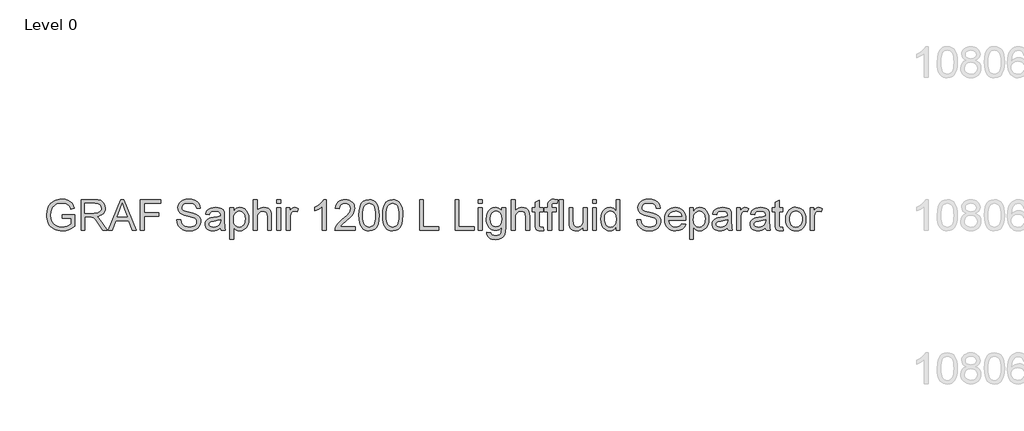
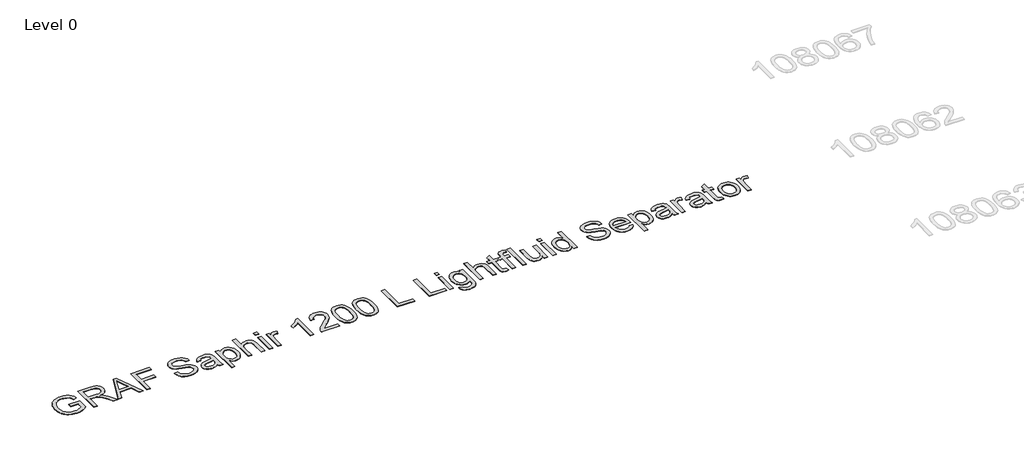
# One storey, part 3 of 9: 1 proxy.
"""IFC4 building model written with IfcOpenShell, lengths in millimetres."""

from ifc_helpers import new_model, si_unit, origin, origin_with_axes, place, context, project, spatial, polyline, outline, extrude, element, save

model = new_model("IFC4")

# Units and contexts
model_context = context("Model", 3, world=origin())
ifc_project = project(units=[si_unit("LENGTHUNIT", "METRE", prefix="MILLI")], contexts=[model_context])

# Site, building, storey
site = spatial("IfcSite", under=ifc_project)
building = spatial("IfcBuilding", under=site)
storey = spatial("IfcBuildingStorey", under=building, Name="Level 0", Elevation=0.0)

# Proxy
placement = place(None, origin())
element("IfcBuildingElementProxy", 1, Name="400mm Arial", ObjectType="400mm Arial", at=placement, inside=storey, context=model_context, shape_type="SweptSolid", body=[
    extrude(outline(polyline([(-14937.8149833, 2305.9861864), (-14937.8149833, 2356.2143415), (-14774.5734793, 2356.2143415), (-14774.5734793, 2206.0203856), (-14814.2434211, 2178.429236), (-14855.1641617, 2158.6371846), (-14897.2375993, 2146.717808), (-14940.3656318, 2142.7446824), (-14969.2167773, 2144.3235093), (-14996.7128907, 2149.05999), (-15022.8539722, 2156.9541245), (-15047.6400216, 2168.0059128), (-15070.2708957, 2182.0498079), (-15089.9464511, 2198.9202631), (-15106.6666877, 2218.6172783), (-15120.4316057, 2241.1408534), (-15131.182957, 2265.770553), (-15138.8624937, 2291.7859414), (-15143.4702157, 2319.1870187), (-15145.006123, 2347.9737848), (-15138.8870191, 2404.5662984), (-15131.2381393, 2431.3818302), (-15120.5297076, 2457.2102119), (-15106.9517963, 2480.9171408), (-15090.6944778, 2501.3683141), (-15071.7577521, 2518.5637317), (-15050.1416192, 2532.5033936), (-15026.3151286, 2543.2762047), (-15000.74733, 2550.9710698), (-14973.4382232, 2555.5879888), (-14944.3878083, 2557.1269618), (-14903.0133466, 2553.5585065), (-14865.8082141, 2542.8531404), (-14834.4769309, 2525.7834158), (-14810.7240167, 2503.1218849), (-14793.1515201, 2473.7771644), (-14780.3614894, 2436.6578711), (-14826.6655698, 2423.610323), (-14837.0030539, 2450.0855639), (-14849.5723554, 2470.0615563), (-14866.2006216, 2485.1201926), (-14888.7149997, 2496.8433655), (-14915.5581226, 2504.3849464), (-14945.1726232, 2506.8988067), (-14979.8393699, 2504.1887427), (-15009.478396, 2496.0585506), (-15033.9793369, 2483.5260373), (-15053.2318279, 2467.6090096), (-15068.0084214, 2449.1290708), (-15079.0816695, 2428.9078238), (-15090.8538933, 2390.9914528), (-15094.7779679, 2350.033924), (-15090.0568157, 2302.0007981), (-15075.8933588, 2262.4780091), (-15052.7167931, 2231.7475998), (-15020.9563142, 2210.091613), (-14983.78797, 2197.2525314), (-14944.3878083, 2192.9728375), (-14909.5984343, 2196.1979363), (-14875.6674516, 2205.8732328), (-14846.2001038, 2219.2028238), (-14824.8016344, 2233.390806), (-14824.8016344, 2305.9861864), (-14937.8149833, 2305.9861864)])), origin_with_axes(), (0.0, 0.0, 1.0), 5.0),
    extrude(outline(polyline([(-14692.9527273, 2149.0232018), (-14692.9527273, 2550.8484424), (-14519.8029349, 2550.8484424), (-14473.2658625, 2548.1383784), (-14439.4084563, 2540.0081863), (-14414.6622607, 2524.9986009), (-14395.4588206, 2501.6503569), (-14383.1347737, 2472.6980439), (-14379.0267581, 2440.8762513), (-14380.7282123, 2420.2380714), (-14385.832575, 2401.2921486), (-14394.3398462, 2384.0384831), (-14406.2500258, 2368.4770747), (-14421.716398, 2355.1045642), (-14440.892247, 2344.4175922), (-14463.7775727, 2336.4161588), (-14490.3723753, 2331.100264), (-14461.8247325, 2309.6159554), (-14421.1124584, 2257.9162724), (-14354.1088843, 2149.0232018), (-14412.4794942, 2149.0232018), (-14464.7677885, 2232.3116855), (-14502.5370066, 2287.4449339), (-14516.5778361, 2303.5213771), (-14529.0735612, 2313.4909791), (-14552.9613654, 2323.055911), (-14582.0976194, 2324.8217446), (-14642.7245723, 2324.8217446), (-14642.7245723, 2149.0232018), (-14692.9527273, 2149.0232018)]), holes=[polyline([(-14642.7245723, 2375.0498997), (-14530.2998345, 2375.0498997), (-14498.0120581, 2376.827996), (-14472.9592942, 2382.1622849), (-14454.0992106, 2391.4083857), (-14440.3894749, 2404.9219177), (-14432.0385536, 2421.268141), (-14429.2549132, 2439.0123159), (-14434.5646766, 2463.5132568), (-14450.493967, 2483.2562572), (-14462.6555327, 2490.8530204), (-14477.9011757, 2496.2792798), (-14517.6446939, 2500.6202873), (-14642.7245723, 2500.6202873), (-14642.7245723, 2375.0498997)])]), origin_with_axes(), (0.0, 0.0, 1.0), 5.0),
    extrude(outline(polyline([(-14337.9220765, 2149.0232018), (-14177.5255266, 2550.8484424), (-14134.7531133, 2550.8484424), (-13974.3565634, 2149.0232018), (-14027.4296726, 2149.0232018), (-14073.4394475, 2274.5935895), (-14238.9372943, 2274.5935895), (-14284.8489673, 2149.0232018), (-14337.9220765, 2149.0232018)]), holes=[polyline([(-14220.4941437, 2324.8217446), (-14091.7844963, 2324.8217446), (-14127.9840846, 2423.610323), (-14156.13932, 2500.6202873), (-14181.1552956, 2432.2432872), (-14220.4941437, 2324.8217446)])]), origin_with_axes(), (0.0, 0.0, 1.0), 5.0),
    extrude(outline(polyline([(-13920.6948431, 2149.0232018), (-13920.6948431, 2550.8484424), (-13650.7185095, 2550.8484424), (-13650.7185095, 2500.6202873), (-13870.466688, 2500.6202873), (-13870.466688, 2381.328419), (-13682.1111064, 2381.328419), (-13682.1111064, 2331.100264), (-13870.466688, 2331.100264), (-13870.466688, 2149.0232018), (-13920.6948431, 2149.0232018)])), origin_with_axes(), (0.0, 0.0, 1.0), 5.0),
    extrude(outline(polyline([(-13443.5273698, 2287.1506283), (-13393.2992148, 2287.1506283), (-13387.5357302, 2259.2774358), (-13377.112407, 2236.8734223), (-13360.8520228, 2219.0924592), (-13337.5773552, 2205.0884179), (-13309.1278143, 2196.0017326), (-13277.3428099, 2192.9728375), (-13249.3592528, 2195.2659686), (-13224.8583119, 2202.1453619), (-13205.0049469, 2213.034669), (-13190.9641174, 2227.3575413), (-13182.6131961, 2243.8018665), (-13179.8295557, 2261.0555321), (-13181.9142203, 2277.8677393), (-13188.1682143, 2292.3990781), (-13200.8724058, 2304.7967013), (-13222.3076634, 2315.2077618), (-13295.4426041, 2334.3866765), (-13343.4512044, 2347.0786053), (-13374.169351, 2359.1573975), (-13399.173064, 2376.0554438), (-13416.8927134, 2396.5342082), (-13427.4509267, 2420.1522323), (-13430.9703311, 2446.4680577), (-13426.6170608, 2475.8863545), (-13413.55725, 2503.3180886), (-13392.1342551, 2526.5682307), (-13362.6914328, 2543.4417516), (-13327.3502358, 2553.7056592), (-13288.2321169, 2557.1269618), (-13245.8521111, 2553.5462437), (-13208.769606, 2542.8040895), (-13178.3089768, 2525.1212282), (-13155.7945987, 2500.7183892), (-13141.5453027, 2471.1161513), (-13135.87992, 2437.8350935), (-13186.1080751, 2437.8350935), (-13195.3296504, 2467.8052134), (-13203.6928345, 2479.6632764), (-13214.557616, 2489.4366747), (-13244.6013123, 2502.5332737), (-13286.2700796, 2506.8988067), (-13328.9198656, 2502.5823247), (-13345.2231694, 2497.1867221), (-13358.178747, 2489.6328784), (-13375.1013187, 2470.5765911), (-13380.742176, 2447.9395856), (-13376.744525, 2428.6380436), (-13364.7515719, 2413.1134234), (-13336.4001328, 2399.2320095), (-13282.7384125, 2385.0562899), (-13227.3599095, 2371.5918089), (-13193.8581224, 2359.8441105), (-13165.2246405, 2341.621689), (-13145.2486482, 2319.1318364), (-13133.5132125, 2292.6198073), (-13129.6014006, 2262.3308563), (-13134.1018237, 2231.3674551), (-13147.6030929, 2202.2434638), (-13169.5533853, 2177.1784372), (-13199.4008778, 2158.39193), (-13235.2938978, 2146.6564943), (-13275.3807726, 2142.7446824), (-13324.5911208, 2146.9630626), (-13365.0949285, 2159.6182033), (-13397.3581794, 2180.7591553), (-13421.8468576, 2210.4349695), (-13437.5676815, 2246.5855069), (-13443.5273698, 2287.1506283)])), origin_with_axes(), (0.0, 0.0, 1.0), 5.0),
    extrude(outline(polyline([(-12872.1821059, 2186.6943181), (-12896.1802747, 2166.1174519), (-12920.889682, 2152.6529708), (-12946.8744136, 2145.2217545), (-12974.6985552, 2142.7446824), (-12997.0627148, 2144.2346045), (-13016.6738908, 2148.7043708), (-13033.5320833, 2156.1539812), (-13047.6372921, 2166.5834357), (-13058.7749195, 2179.3305469), (-13066.7303676, 2193.733127), (-13071.5036365, 2209.7911761), (-13073.0947262, 2227.5046941), (-13070.6912305, 2248.3268151), (-13063.4807434, 2267.2359496), (-13052.3584444, 2283.4227574), (-13038.219513, 2296.077898), (-13021.6035096, 2305.6428299), (-13003.0499943, 2312.5590114), (-12959.5908679, 2320.112855), (-12908.2345414, 2328.0591061), (-12872.4764115, 2337.3787834), (-12872.1821059, 2348.562396), (-12875.6401966, 2370.9786722), (-12886.0144689, 2385.6449011), (-12909.21556, 2396.5342082), (-12941.5401247, 2400.1639772), (-12971.4611936, 2397.7482188), (-12992.356891, 2390.5009435), (-13006.6061869, 2377.0977761), (-13016.5880517, 2356.2143415), (-13066.8162068, 2362.4928609), (-13058.0974035, 2389.9613832), (-13045.0866436, 2411.5437936), (-13026.5699165, 2428.0494324), (-13001.3332116, 2440.2876401), (-12970.4679122, 2447.8660092), (-12935.0654016, 2450.3921323), (-12901.1098934, 2448.1603148), (-12874.1931941, 2441.4648625), (-12853.8983707, 2431.3971586), (-12839.8084903, 2419.0485863), (-12830.4642876, 2403.7814835), (-12824.4064974, 2384.9581881), (-12821.9539508, 2341.0085524), (-12821.9539508, 2278.5176641), (-12819.4033023, 2191.2560549), (-12809.396912, 2149.0232018), (-12859.6250671, 2149.0232018), (-12867.6694201, 2166.4853339), (-12872.1821059, 2186.6943181)]), holes=[polyline([(-12872.1821059, 2287.1506283), (-12905.9291476, 2278.7874443), (-12953.2142467, 2271.7486354), (-12996.4281184, 2263.6061806), (-13007.6730447, 2258.0388997), (-13015.9994405, 2250.3624288), (-13021.1497884, 2241.1653789), (-13022.8665711, 2231.0363613), (-13019.1264375, 2216.1003523), (-13007.9060366, 2203.8621446), (-12989.4506232, 2195.6951643), (-12964.0054519, 2192.9728375), (-12937.0274389, 2195.9772071), (-12913.1886856, 2204.990316), (-12893.8626181, 2218.270856), (-12880.4226626, 2234.0775191), (-12874.4629742, 2250.3624288), (-12872.4764115, 2272.9258578), (-12872.1821059, 2287.1506283)])]), origin_with_axes(), (0.0, 0.0, 1.0), 5.0),
    extrude(outline(polyline([(-12752.8902376, 2036.0098529), (-12752.8902376, 2444.1136129), (-12702.6620825, 2444.1136129), (-12702.6620825, 2394.8664765), (-12686.279071, 2419.1589509), (-12667.9340221, 2436.5107183), (-12646.5478155, 2446.9217788), (-12621.0413305, 2450.3921323), (-12587.0735596, 2445.5360899), (-12557.3732199, 2430.9679629), (-12533.19111, 2407.570668), (-12515.7780289, 2376.227122), (-12505.2566039, 2339.2181933), (-12501.7494622, 2298.8247503), (-12505.710325, 2255.868396), (-12517.5929134, 2217.4492529), (-12537.0170828, 2185.5170957), (-12563.6026883, 2162.021699), (-12594.5660896, 2147.5639366), (-12627.1236461, 2142.7446824), (-12650.2143727, 2145.9697813), (-12670.8280272, 2155.6450777), (-12688.4741002, 2170.2499929), (-12702.6620825, 2188.263948), (-12702.6620825, 2036.0098529), (-12752.8902376, 2036.0098529)]), holes=[polyline([(-12702.6620825, 2294.2139626), (-12697.2296917, 2249.1852064), (-12690.4392032, 2231.7475998), (-12680.9325193, 2217.6945076), (-12656.8852996, 2199.153255), (-12643.1234473, 2194.5179419), (-12628.2027667, 2192.9728375), (-12613.0674882, 2194.5731242), (-12599.0542499, 2199.3739842), (-12586.1630517, 2207.3754176), (-12574.3938935, 2218.5774244), (-12564.5867726, 2233.13942), (-12557.5816863, 2251.2208201), (-12553.3786345, 2272.8216246), (-12551.9776173, 2297.9418335), (-12557.4467963, 2342.725335), (-12564.28327, 2360.2978317), (-12573.8543332, 2374.6574922), (-12597.8647648, 2393.7873559), (-12611.4702673, 2398.5698219), (-12626.1426275, 2400.1639772), (-12640.7690025, 2398.4686543), (-12654.5308548, 2393.3826858), (-12679.4609913, 2373.0388114), (-12689.6114687, 2357.9403212), (-12696.8618097, 2339.7700163), (-12701.2120143, 2318.5278968), (-12702.6620825, 2294.2139626)])]), origin_with_axes(), (0.0, 0.0, 1.0), 5.0),
    extrude(outline(polyline([(-12445.2427877, 2149.0232018), (-12445.2427877, 2550.8484424), (-12395.0146327, 2550.8484424), (-12395.0146327, 2403.1070332), (-12376.5653506, 2423.794264), (-12355.8474629, 2438.5708575), (-12332.8609696, 2447.4368136), (-12307.6058706, 2450.3921323), (-12277.2678687, 2447.1670334), (-12251.197298, 2437.491737), (-12230.6694827, 2422.1265323), (-12216.959747, 2401.8317089), (-12209.2342251, 2373.9462537), (-12206.6590511, 2335.8091535), (-12206.6590511, 2149.0232018), (-12256.8872062, 2149.0232018), (-12256.8872062, 2330.6097546), (-12260.8848572, 2362.0514025), (-12272.8778103, 2383.5847619), (-12292.2038777, 2396.0191734), (-12318.2008721, 2400.1639772), (-12339.4276632, 2397.368074), (-12359.3546046, 2388.9803645), (-12375.8602434, 2375.8101891), (-12386.8231269, 2358.6668881), (-12392.9667562, 2335.8827299), (-12395.0146327, 2305.7899827), (-12395.0146327, 2149.0232018), (-12445.2427877, 2149.0232018)])), origin_with_axes(), (0.0, 0.0, 1.0), 5.0),
    extrude(outline(polyline([(-12137.5953379, 2500.6202873), (-12137.5953379, 2550.8484424), (-12087.3671828, 2550.8484424), (-12087.3671828, 2500.6202873), (-12137.5953379, 2500.6202873)])), origin_with_axes(), (0.0, 0.0, 1.0), 5.0),
    extrude(outline(polyline([(-12137.5953379, 2149.0232018), (-12137.5953379, 2444.1136129), (-12087.3671828, 2444.1136129), (-12087.3671828, 2149.0232018), (-12137.5953379, 2149.0232018)])), origin_with_axes(), (0.0, 0.0, 1.0), 5.0),
    extrude(outline(polyline([(-12012.0249502, 2149.0232018), (-12012.0249502, 2444.1136129), (-11968.0753145, 2444.1136129), (-11968.0753145, 2400.4582828), (-11951.8394558, 2425.7685641), (-11936.8789213, 2440.6800476), (-11921.8693359, 2447.9641111), (-11905.4863244, 2450.3921323), (-11880.4703487, 2446.5171086), (-11855.0619656, 2434.8920375), (-11871.8373846, 2389.8632813), (-11889.4957204, 2397.5888032), (-11907.1540561, 2400.1639772), (-11922.1513788, 2397.6869051), (-11935.5545461, 2390.2556888), (-11946.3825395, 2378.434414), (-11953.6543403, 2362.7871665), (-11959.7611814, 2334.730033), (-11961.7967951, 2304.122251), (-11961.7967951, 2149.0232018), (-12012.0249502, 2149.0232018)])), origin_with_axes(), (0.0, 0.0, 1.0), 5.0),
    extrude(outline(polyline([(-11490.9078413, 2149.0232018), (-11541.1359964, 2149.0232018), (-11541.1359964, 2462.1643561), (-11562.1052701, 2445.2049961), (-11588.7154011, 2428.2701616), (-11641.5923065, 2402.9108294), (-11641.5923065, 2450.3921323), (-11602.1430939, 2471.8519153), (-11567.9668566, 2497.3829258), (-11541.0256318, 2524.532617), (-11523.2814569, 2550.8484424), (-11490.9078413, 2550.8484424), (-11490.9078413, 2149.0232018)])), origin_with_axes(), (0.0, 0.0, 1.0), 5.0),
    extrude(outline(polyline([(-11114.1966782, 2199.2513569), (-11114.1966782, 2149.0232018), (-11377.8944924, 2149.0232018), (-11376.7908464, 2166.7060631), (-11372.4988898, 2183.6531603), (-11360.1135293, 2210.7170124), (-11341.9892097, 2236.9715241), (-11315.7714861, 2264.4523092), (-11279.105914, 2295.1949812), (-11224.9046333, 2343.3384717), (-11192.383865, 2378.8758724), (-11176.1234808, 2407.7178208), (-11170.7033527, 2435.7749543), (-11175.8169124, 2460.9258201), (-11191.1575916, 2481.8337801), (-11214.7388275, 2495.9236605), (-11244.5740573, 2500.6202873), (-11275.9053406, 2496.0340251), (-11300.2468659, 2482.2752385), (-11315.9554271, 2460.423048), (-11321.3878179, 2431.5565741), (-11371.615973, 2437.8350935), (-11367.2964252, 2463.7646428), (-11359.439079, 2486.4200423), (-11348.0439342, 2505.8012921), (-11333.1109908, 2521.9083921), (-11314.9836055, 2534.5696641), (-11294.0051348, 2543.6134298), (-11270.1755785, 2549.0396893), (-11243.4949368, 2550.8484424), (-11216.5751718, 2548.8373542), (-11192.6168569, 2542.8040895), (-11171.619992, 2532.7486483), (-11153.5845772, 2518.6710306), (-11139.0992236, 2501.6135687), (-11128.7525425, 2482.618595), (-11122.5445339, 2461.6861095), (-11120.4751976, 2438.8161122), (-11122.7070151, 2414.7934179), (-11129.4024674, 2391.1876565), (-11141.2850558, 2367.177225), (-11159.0782817, 2341.9405201), (-11187.4419835, 2311.8109847), (-11231.0359999, 2273.1220615), (-11288.8179986, 2224.8068928), (-11311.4795295, 2199.2513569), (-11114.1966782, 2199.2513569)])), origin_with_axes(), (0.0, 0.0, 1.0), 5.0),
    extrude(outline(polyline([(-11063.9685232, 2346.6984606), (-11060.2774405, 2411.0164961), (-11049.2041924, 2462.3115089), (-11030.8591436, 2501.3683141), (-11019.0010806, 2516.6016944), (-11005.3526586, 2528.9717264), (-10989.8678923, 2538.5427897), (-10972.5007964, 2545.3792634), (-10932.1196161, 2550.8484424), (-10901.1684776, 2547.6110809), (-10873.4547006, 2537.8989962), (-10850.2781349, 2522.0923331), (-10832.9386302, 2500.5712364), (-10819.8420312, 2473.519647), (-10809.3941825, 2441.121506), (-10802.5515774, 2399.9800362), (-10800.270709, 2346.6984606), (-10803.9250035, 2282.7483071), (-10814.887887, 2231.5759215), (-10833.1225712, 2192.4823282), (-10844.953043, 2177.2029627), (-10858.592268, 2164.7685512), (-10874.0954284, 2155.1331086), (-10891.5177066, 2148.2506496), (-10932.1196161, 2142.7446824), (-10959.7843421, 2145.1359154), (-10984.3098085, 2152.3096143), (-11005.6960151, 2164.2657792), (-11023.9429621, 2181.0044099), (-11041.4541451, 2211.262704), (-11053.9621329, 2248.9644772), (-11061.4669256, 2294.1097294), (-11063.9685232, 2346.6984606)]), holes=[polyline([(-11013.7403681, 2346.7965624), (-11012.2688401, 2303.1320353), (-11007.8542562, 2267.7877726), (-11000.4966163, 2240.7637744), (-10990.1959204, 2222.0600406), (-10977.7369835, 2209.3343892), (-10963.9046205, 2200.2446383), (-10948.6988314, 2194.7907877), (-10932.1196161, 2192.9728375), (-10915.5404009, 2194.7969191), (-10900.3346117, 2200.2691637), (-10886.5022487, 2209.3895715), (-10874.0433118, 2222.1581425), (-10863.7426159, 2240.8925331), (-10856.384976, 2267.9103999), (-10851.9703921, 2303.2117431), (-10850.4988641, 2346.7965624), (-10851.9213412, 2389.305327), (-10856.1887723, 2424.0272559), (-10863.3011575, 2450.9623494), (-10873.2584969, 2470.1106072), (-10885.5089673, 2483.4585923), (-10899.5007459, 2492.9928673), (-10915.2338325, 2498.7134323), (-10932.7082273, 2500.6202873), (-10949.2016034, 2498.9402929), (-10964.1498751, 2493.9003096), (-10977.5530425, 2485.5003373), (-10989.4111055, 2473.7403762), (-11000.0551579, 2452.8937298), (-11007.6580524, 2424.7875454), (-11012.2197892, 2389.4218229), (-11013.7403681, 2346.7965624)])]), origin_with_axes(), (0.0, 0.0, 1.0), 5.0),
    extrude(outline(polyline([(-10756.3210733, 2346.6984606), (-10752.6299907, 2411.0164961), (-10741.5567426, 2462.3115089), (-10723.2116938, 2501.3683141), (-10711.3536308, 2516.6016944), (-10697.7052088, 2528.9717264), (-10682.2204425, 2538.5427897), (-10664.8533466, 2545.3792634), (-10624.4721663, 2550.8484424), (-10593.5210277, 2547.6110809), (-10565.8072508, 2537.8989962), (-10542.6306851, 2522.0923331), (-10525.2911804, 2500.5712364), (-10512.1945813, 2473.519647), (-10501.7467327, 2441.121506), (-10494.9041276, 2399.9800362), (-10492.6232592, 2346.6984606), (-10496.2775537, 2282.7483071), (-10507.2404371, 2231.5759215), (-10525.4751214, 2192.4823282), (-10537.3055932, 2177.2029627), (-10550.9448182, 2164.7685512), (-10566.4479786, 2155.1331086), (-10583.8702567, 2148.2506496), (-10624.4721663, 2142.7446824), (-10652.1368923, 2145.1359154), (-10676.6623587, 2152.3096143), (-10698.0485653, 2164.2657792), (-10716.2955123, 2181.0044099), (-10733.8066952, 2211.262704), (-10746.3146831, 2248.9644772), (-10753.8194758, 2294.1097294), (-10756.3210733, 2346.6984606)]), holes=[polyline([(-10706.0929183, 2346.7965624), (-10704.6213903, 2303.1320353), (-10700.2068063, 2267.7877726), (-10692.8491664, 2240.7637744), (-10682.5484706, 2222.0600406), (-10670.0895337, 2209.3343892), (-10656.2571707, 2200.2446383), (-10641.0513815, 2194.7907877), (-10624.4721663, 2192.9728375), (-10607.892951, 2194.7969191), (-10592.6871619, 2200.2691637), (-10578.8547989, 2209.3895715), (-10566.395862, 2222.1581425), (-10556.0951661, 2240.8925331), (-10548.7375262, 2267.9103999), (-10544.3229423, 2303.2117431), (-10542.8514143, 2346.7965624), (-10544.2738913, 2389.305327), (-10548.5413225, 2424.0272559), (-10555.6537077, 2450.9623494), (-10565.611047, 2470.1106072), (-10577.8615175, 2483.4585923), (-10591.853296, 2492.9928673), (-10607.5863827, 2498.7134323), (-10625.0607775, 2500.6202873), (-10641.5541536, 2498.9402929), (-10656.5024253, 2493.9003096), (-10669.9055927, 2485.5003373), (-10681.7636557, 2473.7403762), (-10692.407708, 2452.8937298), (-10700.0106026, 2424.7875454), (-10704.5723394, 2389.4218229), (-10706.0929183, 2346.7965624)])]), origin_with_axes(), (0.0, 0.0, 1.0), 5.0),
    extrude(outline(polyline([(-10272.8750807, 2149.0232018), (-10272.8750807, 2550.8484424), (-10222.6469257, 2550.8484424), (-10222.6469257, 2199.2513569), (-10021.7343054, 2199.2513569), (-10021.7343054, 2149.0232018), (-10272.8750807, 2149.0232018)])), origin_with_axes(), (0.0, 0.0, 1.0), 5.0),
    extrude(outline(polyline([(-9808.2646463, 2149.0232018), (-9808.2646463, 2550.8484424), (-9758.0364912, 2550.8484424), (-9758.0364912, 2199.2513569), (-9557.1238709, 2199.2513569), (-9557.1238709, 2149.0232018), (-9808.2646463, 2149.0232018)])), origin_with_axes(), (0.0, 0.0, 1.0), 5.0),
    extrude(outline(polyline([(-9506.8957159, 2500.6202873), (-9506.8957159, 2550.8484424), (-9456.6675608, 2550.8484424), (-9456.6675608, 2500.6202873), (-9506.8957159, 2500.6202873)])), origin_with_axes(), (0.0, 0.0, 1.0), 5.0),
    extrude(outline(polyline([(-9506.8957159, 2149.0232018), (-9506.8957159, 2444.1136129), (-9456.6675608, 2444.1136129), (-9456.6675608, 2149.0232018), (-9506.8957159, 2149.0232018)])), origin_with_axes(), (0.0, 0.0, 1.0), 5.0),
    extrude(outline(polyline([(-9393.8823669, 2123.9091243), (-9343.6542119, 2117.6306049), (-9338.1114565, 2101.9343064), (-9327.3693022, 2091.1431012), (-9306.2528757, 2082.7553918), (-9278.6126751, 2079.9594886), (-9249.1330646, 2083.1232738), (-9227.2072977, 2092.6146292), (-9212.0015085, 2107.8204184), (-9202.6818313, 2128.1275045), (-9199.248266, 2186.6943181), (-9215.9623713, 2170.2132047), (-9234.6139885, 2158.4409809), (-9255.2031175, 2151.3776466), (-9277.7297583, 2149.0232018), (-9305.2687913, 2151.7639227), (-9329.5152805, 2159.9860853), (-9350.4692258, 2173.6896896), (-9368.1306273, 2192.8747356), (-9382.1438656, 2215.8918858), (-9392.1533216, 2241.0918025), (-9398.1589951, 2268.4744857), (-9400.1608863, 2298.0399353), (-9396.5679055, 2338.5927939), (-9385.788963, 2375.8837655), (-9368.2042037, 2407.4848289), (-9344.1937721, 2430.9679629), (-9314.5792715, 2445.5360899), (-9280.182305, 2450.3921323), (-9256.6930396, 2447.64528), (-9235.3742779, 2439.4047233), (-9216.2260201, 2425.6704622), (-9199.248266, 2406.4424966), (-9199.248266, 2444.1136129), (-9149.0201109, 2444.1136129), (-9149.0201109, 2189.3430685), (-9152.4536762, 2130.5187375), (-9162.7543721, 2091.7807634), (-9180.498547, 2066.0903374), (-9206.2625494, 2046.4086506), (-9239.4822936, 2033.9006628), (-9279.5936938, 2029.7313335), (-9304.2019336, 2031.1997958), (-9326.3269699, 2035.6051827), (-9345.9688027, 2042.9474942), (-9363.1274321, 2053.2267303), (-9376.9873863, 2066.4551537), (-9386.7331935, 2082.6450272), (-9392.3648537, 2101.7963507), (-9393.8823669, 2123.9091243)]), holes=[polyline([(-9349.9327312, 2301.4735006), (-9344.5739168, 2255.4024121), (-9337.8753989, 2237.7655361), (-9328.4974737, 2223.7277723), (-9317.0961975, 2213.0193406), (-9304.3276266, 2205.3704607), (-9290.1917609, 2200.7811329), (-9274.6886005, 2199.2513569), (-9259.3387243, 2200.7719358), (-9245.2703036, 2205.3336726), (-9232.4833386, 2212.9365671), (-9220.9778292, 2223.5806195), (-9211.4711453, 2237.4804276), (-9204.6806568, 2254.8505891), (-9199.248266, 2300.0019726), (-9204.8400723, 2343.5469381), (-9211.8298303, 2360.7484871), (-9221.6154913, 2374.9027469), (-9233.3693211, 2385.9545351), (-9246.263585, 2393.8486696), (-9260.2982831, 2398.5851503), (-9275.4734154, 2400.1639772), (-9290.394096, 2398.6096758), (-9304.1559483, 2393.9467715), (-9328.2031681, 2375.2951543), (-9337.709852, 2361.3554924), (-9344.5003405, 2344.4053295), (-9349.9327312, 2301.4735006)])]), origin_with_axes(), (0.0, 0.0, 1.0), 5.0),
    extrude(outline(polyline([(-9073.6778783, 2149.0232018), (-9073.6778783, 2550.8484424), (-9023.4497233, 2550.8484424), (-9023.4497233, 2403.1070332), (-9005.0004412, 2423.794264), (-8984.2825535, 2438.5708575), (-8961.2960602, 2447.4368136), (-8936.0409612, 2450.3921323), (-8905.7029593, 2447.1670334), (-8879.6323886, 2437.491737), (-8859.1045733, 2422.1265323), (-8845.3948376, 2401.8317089), (-8837.6693157, 2373.9462537), (-8835.0941417, 2335.8091535), (-8835.0941417, 2149.0232018), (-8885.3222968, 2149.0232018), (-8885.3222968, 2330.6097546), (-8889.3199478, 2362.0514025), (-8901.3129009, 2383.5847619), (-8920.6389683, 2396.0191734), (-8946.6359627, 2400.1639772), (-8967.8627538, 2397.368074), (-8987.7896952, 2388.9803645), (-9004.295334, 2375.8101891), (-9015.2582175, 2358.6668881), (-9021.4018468, 2335.8827299), (-9023.4497233, 2305.7899827), (-9023.4497233, 2149.0232018), (-9073.6778783, 2149.0232018)])), origin_with_axes(), (0.0, 0.0, 1.0), 5.0),
    extrude(outline(polyline([(-8659.295599, 2190.9126983), (-8653.0170796, 2147.5516738), (-8690.590094, 2142.7446824), (-8714.6986274, 2144.8293471), (-8732.6757943, 2151.083341), (-8745.3799858, 2160.7218493), (-8753.6695935, 2172.960057), (-8758.2313302, 2193.9783816), (-8759.7519091, 2229.9572408), (-8759.7519091, 2393.8854578), (-8797.4230254, 2393.8854578), (-8797.4230254, 2444.1136129), (-8759.7519091, 2444.1136129), (-8759.7519091, 2515.8260765), (-8709.523754, 2545.354738), (-8709.523754, 2444.1136129), (-8659.295599, 2444.1136129), (-8659.295599, 2393.8854578), (-8709.523754, 2393.8854578), (-8709.523754, 2231.4287687), (-8706.8750037, 2205.5298763), (-8698.2910905, 2196.3573519), (-8681.1723149, 2192.9728375), (-8659.295599, 2190.9126983)])), origin_with_axes(), (0.0, 0.0, 1.0), 5.0),
    extrude(outline(polyline([(-8596.5104051, 2149.0232018), (-8596.5104051, 2393.8854578), (-8640.4600408, 2393.8854578), (-8640.4600408, 2444.1136129), (-8596.5104051, 2444.1136129), (-8596.5104051, 2473.8384781), (-8595.1860299, 2498.4375208), (-8591.2129044, 2515.7279746), (-8581.1084123, 2532.4298172), (-8565.5102157, 2545.6490436), (-8543.6825506, 2554.2574822), (-8514.8896531, 2557.1269618), (-8469.076082, 2551.6332573), (-8476.4337219, 2504.544362), (-8505.3737722, 2506.8988067), (-8524.4668477, 2504.8141421), (-8537.0116238, 2498.5601482), (-8543.9645935, 2486.6162461), (-8546.28225, 2467.4618568), (-8546.28225, 2444.1136129), (-8489.7755756, 2444.1136129), (-8489.7755756, 2393.8854578), (-8546.28225, 2393.8854578), (-8546.28225, 2149.0232018), (-8596.5104051, 2149.0232018)])), origin_with_axes(), (0.0, 0.0, 1.0), 5.0),
    extrude(outline(polyline([(-8445.8259399, 2149.0232018), (-8445.8259399, 2550.8484424), (-8395.5977848, 2550.8484424), (-8395.5977848, 2149.0232018), (-8445.8259399, 2149.0232018)])), origin_with_axes(), (0.0, 0.0, 1.0), 5.0),
    extrude(outline(polyline([(-8131.8999707, 2149.0232018), (-8131.8999707, 2199.7418662), (-8150.0733412, 2174.8055983), (-8171.2388187, 2156.9939784), (-8195.396403, 2146.3070064), (-8222.5460943, 2142.7446824), (-8247.010247, 2145.24628), (-8269.7821425, 2152.7510727), (-8288.8874808, 2164.0327872), (-8302.3519618, 2177.8651502), (-8311.4141216, 2194.6650947), (-8317.3124963, 2214.8495535), (-8320.2555522, 2261.5460414), (-8320.2555522, 2444.1136129), (-8270.0273971, 2444.1136129), (-8270.0273971, 2285.188591), (-8266.9862393, 2233.9794172), (-8259.6653876, 2216.8974299), (-8247.1206116, 2203.9111955), (-8230.1857771, 2195.707427), (-8209.6947499, 2192.9728375), (-8188.0265004, 2195.7687407), (-8167.7562025, 2204.1564502), (-8151.0420972, 2217.3634138), (-8140.0424255, 2234.6170794), (-8133.9355844, 2258.2473662), (-8131.8999707, 2290.5841936), (-8131.8999707, 2444.1136129), (-8081.6718156, 2444.1136129), (-8081.6718156, 2149.0232018), (-8131.8999707, 2149.0232018)])), origin_with_axes(), (0.0, 0.0, 1.0), 5.0),
    extrude(outline(polyline([(-8012.6081024, 2500.6202873), (-8012.6081024, 2550.8484424), (-7962.3799473, 2550.8484424), (-7962.3799473, 2500.6202873), (-8012.6081024, 2500.6202873)])), origin_with_axes(), (0.0, 0.0, 1.0), 5.0),
    extrude(outline(polyline([(-8012.6081024, 2149.0232018), (-8012.6081024, 2444.1136129), (-7962.3799473, 2444.1136129), (-7962.3799473, 2149.0232018), (-8012.6081024, 2149.0232018)])), origin_with_axes(), (0.0, 0.0, 1.0), 5.0),
    extrude(outline(polyline([(-7704.9606525, 2149.0232018), (-7704.9606525, 2196.4064028), (-7719.988632, 2172.9294001), (-7738.1926594, 2156.1601125), (-7759.5727347, 2146.09854), (-7784.1288579, 2142.7446824), (-7816.6005753, 2147.6007248), (-7846.3254406, 2162.1688518), (-7871.488569, 2185.4312566), (-7890.2750763, 2216.3701324), (-7901.9737237, 2253.7346804), (-7905.8732728, 2296.2741018), (-7902.280292, 2338.2862256), (-7891.5013496, 2376.227122), (-7873.5487082, 2407.93855), (-7848.4346307, 2431.2622685), (-7818.0598406, 2445.6096663), (-7784.3250616, 2450.3921323), (-7759.7505444, 2446.9708297), (-7738.0209812, 2436.7069221), (-7719.602356, 2420.9738354), (-7704.9606525, 2401.1449958), (-7704.9606525, 2550.8484424), (-7654.7324975, 2550.8484424), (-7654.7324975, 2149.0232018), (-7704.9606525, 2149.0232018)]), holes=[polyline([(-7855.6451178, 2296.4703055), (-7854.2287721, 2272.1134517), (-7849.979735, 2251.0368791), (-7842.8980066, 2233.2405876), (-7832.9835869, 2218.7245772), (-7808.2864423, 2199.4107724), (-7794.4111597, 2194.5823212), (-7779.5180702, 2192.9728375), (-7764.5544701, 2194.5087448), (-7750.7619609, 2199.1164668), (-7726.6902157, 2217.5473548), (-7717.1835318, 2231.4563599), (-7710.3930433, 2248.6088579), (-7704.9606525, 2292.6443327), (-7710.4911452, 2340.7878232), (-7717.404261, 2359.3229444), (-7727.0826232, 2374.1669829), (-7738.7843363, 2385.5406679), (-7751.7675051, 2393.6647286), (-7766.0321294, 2398.5391651), (-7781.5782094, 2400.1639772), (-7796.7656044, 2398.6035444), (-7810.640887, 2393.922246), (-7823.2040572, 2386.120082), (-7834.4551148, 2375.1970525), (-7843.7257411, 2360.914034), (-7850.347617, 2343.0319033), (-7855.6451178, 2296.4703055)])]), origin_with_axes(), (0.0, 0.0, 1.0), 5.0),
    extrude(outline(polyline([(-7434.984319, 2287.1506283), (-7384.7561639, 2287.1506283), (-7378.9926794, 2259.2774358), (-7368.5693562, 2236.8734223), (-7352.308972, 2219.0924592), (-7329.0343044, 2205.0884179), (-7300.5847634, 2196.0017326), (-7268.7997591, 2192.9728375), (-7240.816202, 2195.2659686), (-7216.3152611, 2202.1453619), (-7196.4618961, 2213.034669), (-7182.4210666, 2227.3575413), (-7174.0701453, 2243.8018665), (-7171.2865049, 2261.0555321), (-7173.3711695, 2277.8677393), (-7179.6251634, 2292.3990781), (-7192.329355, 2304.7967013), (-7213.7646126, 2315.2077618), (-7286.8995532, 2334.3866765), (-7334.9081536, 2347.0786053), (-7365.6263002, 2359.1573975), (-7390.6300131, 2376.0554438), (-7408.3496626, 2396.5342082), (-7418.9078758, 2420.1522323), (-7422.4272803, 2446.4680577), (-7418.07401, 2475.8863545), (-7405.0141991, 2503.3180886), (-7383.5912043, 2526.5682307), (-7354.1483819, 2543.4417516), (-7318.8071849, 2553.7056592), (-7279.6890661, 2557.1269618), (-7237.3090603, 2553.5462437), (-7200.2265552, 2542.8040895), (-7169.765926, 2525.1212282), (-7147.2515479, 2500.7183892), (-7133.0022519, 2471.1161513), (-7127.3368692, 2437.8350935), (-7177.5650243, 2437.8350935), (-7186.7865996, 2467.8052134), (-7195.1497836, 2479.6632764), (-7206.0145652, 2489.4366747), (-7236.0582615, 2502.5332737), (-7277.7270288, 2506.8988067), (-7320.3768148, 2502.5823247), (-7336.6801185, 2497.1867221), (-7349.6356961, 2489.6328784), (-7366.5582679, 2470.5765911), (-7372.1991252, 2447.9395856), (-7368.2014742, 2428.6380436), (-7356.2085211, 2413.1134234), (-7327.857082, 2399.2320095), (-7274.1953617, 2385.0562899), (-7218.8168587, 2371.5918089), (-7185.3150716, 2359.8441105), (-7156.6815897, 2341.621689), (-7136.7055973, 2319.1318364), (-7124.9701617, 2292.6198073), (-7121.0583498, 2262.3308563), (-7125.5587729, 2231.3674551), (-7139.0600421, 2202.2434638), (-7161.0103345, 2177.1784372), (-7190.857827, 2158.39193), (-7226.750847, 2146.6564943), (-7266.8377218, 2142.7446824), (-7316.04807, 2146.9630626), (-7356.5518776, 2159.6182033), (-7388.8151286, 2180.7591553), (-7413.3038068, 2210.4349695), (-7429.0246307, 2246.5855069), (-7434.984319, 2287.1506283)])), origin_with_axes(), (0.0, 0.0, 1.0), 5.0),
    extrude(outline(polyline([(-6845.3921081, 2236.9224732), (-6796.1449717, 2230.6439538), (-6803.6957496, 2210.9193475), (-6813.8891466, 2193.5369232), (-6826.7251625, 2178.496681), (-6842.2037975, 2165.7986208), (-6860.1656359, 2155.7125228), (-6880.4512622, 2148.508167), (-6927.9938787, 2142.7446824), (-6959.1596151, 2145.2309516), (-6986.9285744, 2152.689759), (-7011.3007565, 2165.1211048), (-7032.2761616, 2182.5249888), (-7049.1435511, 2204.4170332), (-7061.1916865, 2230.31286), (-7068.4205677, 2260.2124692), (-7070.8301947, 2294.1158607), (-7068.3960422, 2329.1688835), (-7061.0935846, 2360.0648397), (-7048.9228219, 2386.8037294), (-7031.8837542, 2409.3855525), (-7010.9635314, 2427.3259312), (-6987.1493036, 2440.1404873), (-6960.4410707, 2447.829221), (-6930.8388328, 2450.3921323), (-6902.1900225, 2447.8353524), (-6876.2819329, 2440.1650128), (-6853.1145643, 2427.3811135), (-6832.6879165, 2409.4836544), (-6816.0136651, 2386.9508822), (-6804.1034855, 2360.2610435), (-6796.9573777, 2329.4141382), (-6794.5753418, 2294.4101663), (-6794.8696474, 2280.8721089), (-7020.6020397, 2280.8721089), (-7017.6927062, 2260.8286715), (-7011.9077618, 2243.274569), (-7003.2472065, 2228.2098013), (-6991.7110403, 2215.6343684), (-6977.9369253, 2205.7199486), (-6962.5625235, 2198.6382202), (-6927.0128601, 2192.9728375), (-6900.2801018, 2195.5970624), (-6877.7657237, 2203.4697371), (-6859.4697258, 2217.0813709), (-6845.3921081, 2236.9224732)]), holes=[polyline([(-7020.6020397, 2331.100264), (-6844.8034969, 2331.100264), (-6851.5970511, 2357.6368186), (-6864.9143793, 2376.6195295), (-6878.6118522, 2386.9202254), (-6894.1977861, 2394.2778653), (-6911.6721809, 2398.6924492), (-6931.0350366, 2400.1639772), (-6964.8924428, 2395.4673504), (-6992.8882627, 2381.37747), (-7012.3492202, 2359.4149149), (-7020.6020397, 2331.100264)])]), origin_with_axes(), (0.0, 0.0, 1.0), 5.0),
    extrude(outline(polyline([(-6744.3471867, 2036.0098529), (-6744.3471867, 2444.1136129), (-6694.1190317, 2444.1136129), (-6694.1190317, 2394.8664765), (-6677.7360201, 2419.1589509), (-6659.3909713, 2436.5107183), (-6638.0047647, 2446.9217788), (-6612.4982797, 2450.3921323), (-6578.5305088, 2445.5360899), (-6548.830169, 2430.9679629), (-6524.6480592, 2407.570668), (-6507.2349781, 2376.227122), (-6496.7135531, 2339.2181933), (-6493.2064114, 2298.8247503), (-6497.1672742, 2255.868396), (-6509.0498626, 2217.4492529), (-6528.474032, 2185.5170957), (-6555.0596375, 2162.021699), (-6586.0230387, 2147.5639366), (-6618.5805953, 2142.7446824), (-6641.6713219, 2145.9697813), (-6662.2849764, 2155.6450777), (-6679.9310494, 2170.2499929), (-6694.1190317, 2188.263948), (-6694.1190317, 2036.0098529), (-6744.3471867, 2036.0098529)]), holes=[polyline([(-6694.1190317, 2294.2139626), (-6688.6866409, 2249.1852064), (-6681.8961524, 2231.7475998), (-6672.3894685, 2217.6945076), (-6648.3422487, 2199.153255), (-6634.5803964, 2194.5179419), (-6619.6597158, 2192.9728375), (-6604.5244374, 2194.5731242), (-6590.5111991, 2199.3739842), (-6577.6200008, 2207.3754176), (-6565.8508427, 2218.5774244), (-6556.0437218, 2233.13942), (-6549.0386355, 2251.2208201), (-6544.8355837, 2272.8216246), (-6543.4345664, 2297.9418335), (-6548.9037454, 2342.725335), (-6555.7402192, 2360.2978317), (-6565.3112824, 2374.6574922), (-6589.321714, 2393.7873559), (-6602.9272164, 2398.5698219), (-6617.5995767, 2400.1639772), (-6632.2259517, 2398.4686543), (-6645.987804, 2393.3826858), (-6670.9179405, 2373.0388114), (-6681.0684179, 2357.9403212), (-6688.3187589, 2339.7700163), (-6692.6689635, 2318.5278968), (-6694.1190317, 2294.2139626)])]), origin_with_axes(), (0.0, 0.0, 1.0), 5.0),
    extrude(outline(polyline([(-6248.3441554, 2186.6943181), (-6272.3423242, 2166.1174519), (-6297.0517315, 2152.6529708), (-6323.0364631, 2145.2217545), (-6350.8606047, 2142.7446824), (-6373.2247643, 2144.2346045), (-6392.8359403, 2148.7043708), (-6409.6941328, 2156.1539812), (-6423.7993416, 2166.5834357), (-6434.936969, 2179.3305469), (-6442.8924172, 2193.733127), (-6447.665686, 2209.7911761), (-6449.2567757, 2227.5046941), (-6446.85328, 2248.3268151), (-6439.6427929, 2267.2359496), (-6428.5204939, 2283.4227574), (-6414.3815625, 2296.077898), (-6397.7655591, 2305.6428299), (-6379.2120438, 2312.5590114), (-6335.7529174, 2320.112855), (-6284.3965909, 2328.0591061), (-6248.638461, 2337.3787834), (-6248.3441554, 2348.562396), (-6251.8022461, 2370.9786722), (-6262.1765184, 2385.6449011), (-6285.3776096, 2396.5342082), (-6317.7021742, 2400.1639772), (-6347.6232431, 2397.7482188), (-6368.5189405, 2390.5009435), (-6382.7682364, 2377.0977761), (-6392.7501012, 2356.2143415), (-6442.9782563, 2362.4928609), (-6434.259453, 2389.9613832), (-6421.2486931, 2411.5437936), (-6402.731966, 2428.0494324), (-6377.4952612, 2440.2876401), (-6346.6299618, 2447.8660092), (-6311.2274511, 2450.3921323), (-6277.2719429, 2448.1603148), (-6250.3552436, 2441.4648625), (-6230.0604202, 2431.3971586), (-6215.9705398, 2419.0485863), (-6206.6263371, 2403.7814835), (-6200.5685469, 2384.9581881), (-6198.1160003, 2341.0085524), (-6198.1160003, 2278.5176641), (-6195.5653518, 2191.2560549), (-6185.5589615, 2149.0232018), (-6235.7871166, 2149.0232018), (-6243.8314696, 2166.4853339), (-6248.3441554, 2186.6943181)]), holes=[polyline([(-6248.3441554, 2287.1506283), (-6282.0911971, 2278.7874443), (-6329.3762962, 2271.7486354), (-6372.5901679, 2263.6061806), (-6383.8350942, 2258.0388997), (-6392.16149, 2250.3624288), (-6397.311838, 2241.1653789), (-6399.0286206, 2231.0363613), (-6395.288487, 2216.1003523), (-6384.0680861, 2203.8621446), (-6365.6126727, 2195.6951643), (-6340.1675014, 2192.9728375), (-6313.1894884, 2195.9772071), (-6289.3507351, 2204.990316), (-6270.0246676, 2218.270856), (-6256.5847121, 2234.0775191), (-6250.6250237, 2250.3624288), (-6248.638461, 2272.9258578), (-6248.3441554, 2287.1506283)])]), origin_with_axes(), (0.0, 0.0, 1.0), 5.0),
    extrude(outline(polyline([(-6129.0522871, 2149.0232018), (-6129.0522871, 2444.1136129), (-6085.1026514, 2444.1136129), (-6085.1026514, 2400.4582828), (-6068.8667927, 2425.7685641), (-6053.9062582, 2440.6800476), (-6038.8966728, 2447.9641111), (-6022.5136613, 2450.3921323), (-5997.4976856, 2446.5171086), (-5972.0893025, 2434.8920375), (-5988.8647214, 2389.8632813), (-6006.5230572, 2397.5888032), (-6024.181393, 2400.1639772), (-6039.1787157, 2397.6869051), (-6052.581883, 2390.2556888), (-6063.4098764, 2378.434414), (-6070.6816772, 2362.7871665), (-6076.7885183, 2334.730033), (-6078.824132, 2304.122251), (-6078.824132, 2149.0232018), (-6129.0522871, 2149.0232018)])), origin_with_axes(), (0.0, 0.0, 1.0), 5.0),
    extrude(outline(polyline([(-5752.341124, 2186.6943181), (-5776.3392928, 2166.1174519), (-5801.0487002, 2152.6529708), (-5827.0334318, 2145.2217545), (-5854.8575733, 2142.7446824), (-5877.221733, 2144.2346045), (-5896.832909, 2148.7043708), (-5913.6911014, 2156.1539812), (-5927.7963102, 2166.5834357), (-5938.9339377, 2179.3305469), (-5946.8893858, 2193.733127), (-5951.6626547, 2209.7911761), (-5953.2537443, 2227.5046941), (-5950.8502486, 2248.3268151), (-5943.6397615, 2267.2359496), (-5932.5174625, 2283.4227574), (-5918.3785312, 2296.077898), (-5901.7625277, 2305.6428299), (-5883.2090124, 2312.5590114), (-5839.7498861, 2320.112855), (-5788.3935595, 2328.0591061), (-5752.6354296, 2337.3787834), (-5752.341124, 2348.562396), (-5755.7992148, 2370.9786722), (-5766.173487, 2385.6449011), (-5789.3745782, 2396.5342082), (-5821.6991428, 2400.1639772), (-5851.6202118, 2397.7482188), (-5872.5159091, 2390.5009435), (-5886.7652051, 2377.0977761), (-5896.7470699, 2356.2143415), (-5946.9752249, 2362.4928609), (-5938.2564216, 2389.9613832), (-5925.2456617, 2411.5437936), (-5906.7289347, 2428.0494324), (-5881.4922298, 2440.2876401), (-5850.6269304, 2447.8660092), (-5815.2244197, 2450.3921323), (-5781.2689116, 2448.1603148), (-5754.3522123, 2441.4648625), (-5734.0573889, 2431.3971586), (-5719.9675084, 2419.0485863), (-5710.6233058, 2403.7814835), (-5704.5655156, 2384.9581881), (-5702.1129689, 2341.0085524), (-5702.1129689, 2278.5176641), (-5699.5623204, 2191.2560549), (-5689.5559302, 2149.0232018), (-5739.7840852, 2149.0232018), (-5747.8284382, 2166.4853339), (-5752.341124, 2186.6943181)]), holes=[polyline([(-5752.341124, 2287.1506283), (-5786.0881657, 2278.7874443), (-5833.3732648, 2271.7486354), (-5876.5871365, 2263.6061806), (-5887.8320628, 2258.0388997), (-5896.1584587, 2250.3624288), (-5901.3088066, 2241.1653789), (-5903.0255892, 2231.0363613), (-5899.2854556, 2216.1003523), (-5888.0650548, 2203.8621446), (-5869.6096413, 2195.6951643), (-5844.16447, 2192.9728375), (-5817.186457, 2195.9772071), (-5793.3477037, 2204.990316), (-5774.0216363, 2218.270856), (-5760.5816807, 2234.0775191), (-5754.6219924, 2250.3624288), (-5752.6354296, 2272.9258578), (-5752.341124, 2287.1506283)])]), origin_with_axes(), (0.0, 0.0, 1.0), 5.0),
    extrude(outline(polyline([(-5526.3144262, 2190.9126983), (-5520.0359068, 2147.5516738), (-5557.6089212, 2142.7446824), (-5581.7174547, 2144.8293471), (-5599.6946215, 2151.083341), (-5612.398813, 2160.7218493), (-5620.6884207, 2172.960057), (-5625.2501574, 2193.9783816), (-5626.7707363, 2229.9572408), (-5626.7707363, 2393.8854578), (-5664.4418526, 2393.8854578), (-5664.4418526, 2444.1136129), (-5626.7707363, 2444.1136129), (-5626.7707363, 2515.8260765), (-5576.5425813, 2545.354738), (-5576.5425813, 2444.1136129), (-5526.3144262, 2444.1136129), (-5526.3144262, 2393.8854578), (-5576.5425813, 2393.8854578), (-5576.5425813, 2231.4287687), (-5573.8938309, 2205.5298763), (-5565.3099177, 2196.3573519), (-5548.1911422, 2192.9728375), (-5526.3144262, 2190.9126983)])), origin_with_axes(), (0.0, 0.0, 1.0), 5.0),
    extrude(outline(polyline([(-5488.6433099, 2296.5684074), (-5485.9271145, 2334.7852153), (-5477.7785283, 2367.7167852), (-5464.1975513, 2395.3631172), (-5445.1841835, 2417.7242111), (-5426.042057, 2432.0164266), (-5404.9133678, 2442.225152), (-5381.7981157, 2448.3503872), (-5356.6963009, 2450.3921323), (-5328.9855896, 2447.9058631), (-5303.9297601, 2440.4470557), (-5281.5288123, 2428.0157099), (-5261.7827462, 2410.6118259), (-5245.6664491, 2388.8240147), (-5234.1548083, 2363.2408876), (-5227.2478239, 2333.8624446), (-5224.9454957, 2300.6886857), (-5229.0167231, 2249.9454958), (-5241.2304054, 2211.3178863), (-5261.2309232, 2182.3900988), (-5288.6626573, 2160.7463747), (-5321.2447393, 2147.2451055), (-5356.6963009, 2142.7446824), (-5384.8116824, 2145.2217545), (-5410.1005039, 2152.6529708), (-5432.5627654, 2165.0383313), (-5452.1984669, 2182.3778361), (-5468.1430857, 2204.3771794), (-5479.5320991, 2230.7420557), (-5486.3655072, 2261.472465), (-5488.6433099, 2296.5684074)]), holes=[polyline([(-5438.4151548, 2296.6665092), (-5436.9620209, 2272.3035241), (-5432.6026193, 2251.2085573), (-5425.3369499, 2233.381609), (-5415.1650127, 2218.822679), (-5402.7919149, 2207.5133734), (-5388.9227637, 2199.4352979), (-5373.557559, 2194.5884526), (-5356.6963009, 2192.9728375), (-5339.920882, 2194.5976497), (-5324.616991, 2199.4720861), (-5310.7846279, 2207.5961468), (-5298.4237929, 2218.9698318), (-5288.2518557, 2233.6728489), (-5280.9861863, 2251.7849058), (-5276.6267847, 2273.3060025), (-5275.1736508, 2298.2361391), (-5276.6359817, 2321.826572), (-5281.0229745, 2342.3697158), (-5288.3346292, 2359.8655703), (-5298.5709457, 2374.3141357), (-5310.977766, 2385.6234413), (-5324.800932, 2393.7015168), (-5340.0404436, 2398.5483621), (-5356.6963009, 2400.1639772), (-5373.557559, 2398.5544935), (-5388.9227637, 2393.7260423), (-5402.7919149, 2385.6786236), (-5415.1650127, 2374.4122375), (-5425.3369499, 2359.8962271), (-5432.6026193, 2342.0999356), (-5436.9620209, 2321.023363), (-5438.4151548, 2296.6665092)])]), origin_with_axes(), (0.0, 0.0, 1.0), 5.0),
    extrude(outline(polyline([(-5168.4388213, 2149.0232018), (-5168.4388213, 2444.1136129), (-5124.4891856, 2444.1136129), (-5124.4891856, 2400.4582828), (-5108.2533269, 2425.7685641), (-5093.2927924, 2440.6800476), (-5078.283207, 2447.9641111), (-5061.9001955, 2450.3921323), (-5036.8842198, 2446.5171086), (-5011.4758367, 2434.8920375), (-5028.2512556, 2389.8632813), (-5045.9095914, 2397.5888032), (-5063.5679272, 2400.1639772), (-5078.5652498, 2397.6869051), (-5091.9684172, 2390.2556888), (-5102.7964106, 2378.434414), (-5110.0682114, 2362.7871665), (-5116.1750525, 2334.730033), (-5118.2106662, 2304.122251), (-5118.2106662, 2149.0232018), (-5168.4388213, 2149.0232018)])), origin_with_axes(), (0.0, 0.0, 1.0), 5.0),
])

save(model, "model.ifc")
